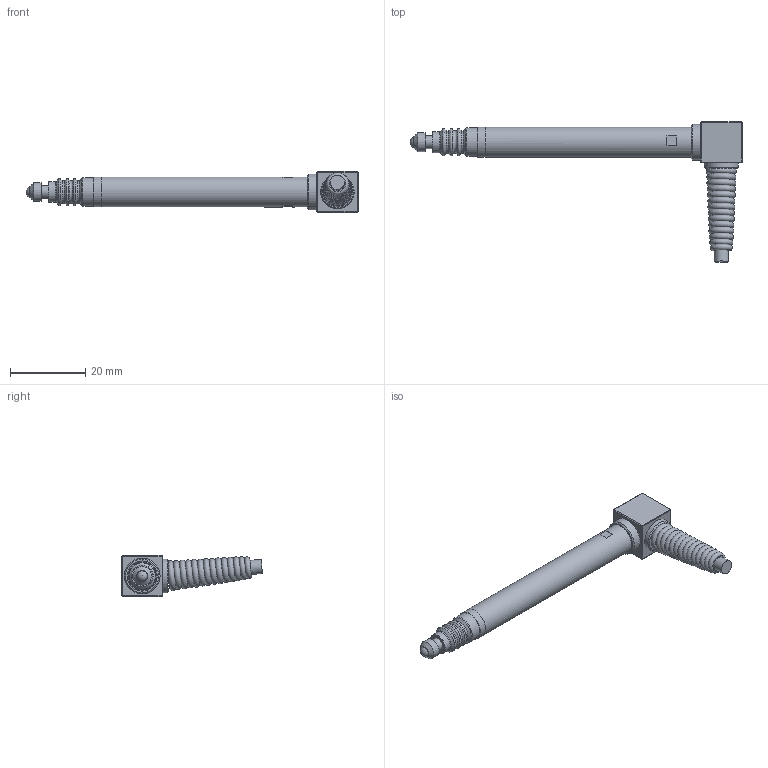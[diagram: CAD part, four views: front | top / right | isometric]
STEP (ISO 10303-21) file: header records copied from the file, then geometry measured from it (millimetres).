
FILE_DESCRIPTION(('STEP AP203'),'1');
FILE_NAME('IP-4L.stp','2023-04-04T02:46:45',(' '),(' '),'Spatial InterOp 3D',' ',' ');
FILE_SCHEMA(('CONFIG_CONTROL_DESIGN'));
Length unit declared in the file: millimetre
Products named in the file (8): IP-4L; 파트4; 파트1; IP-4S-1
Assembly tree (7 placements, depth 2):
  IP-4L
    파트4
    파트1
    파트1
    IP-4S-1
    IP-4S-1
    IP-4S-1
    IP-4S-1
Bounding box: 88.5 x 37.56 x 11 mm (x, y, z)
Volume: 5914.6 mm3; surface area: 3986.2 mm2
Topology: 7 solids, 7 shells, 93 faces, 166 edges, 93 vertices
Faces by surface type: plane 49, torus 22, cylinder 11, cone 10, sphere 1
Full cylindrical faces by diameter (mm): 2.5 x1, 3.4 x1, 3.8 x1, 5 x1, 5.6 x1, 7.6 x1, 8 x3, 9 x1, 9.5 x1
Entity records: 2316 total; most frequent: DIRECTION 376, CARTESIAN_POINT 303, ORIENTED_EDGE 230, AXIS2_PLACEMENT_3D 160, EDGE_LOOP 144, FACE_OUTER_BOUND 126, EDGE_CURVE 115, ADVANCED_FACE 93
